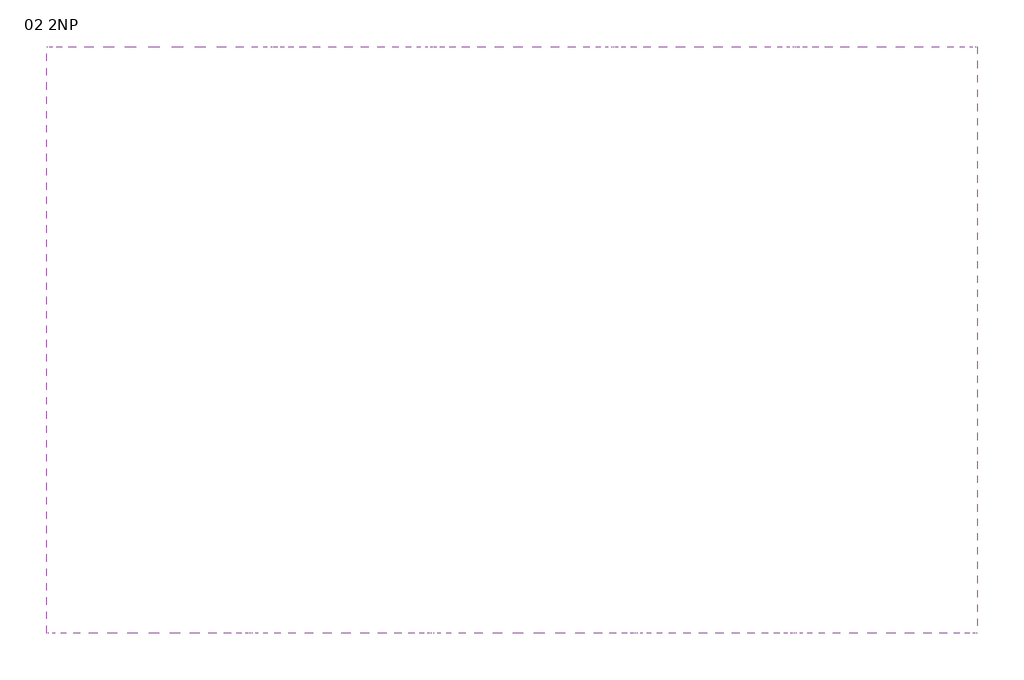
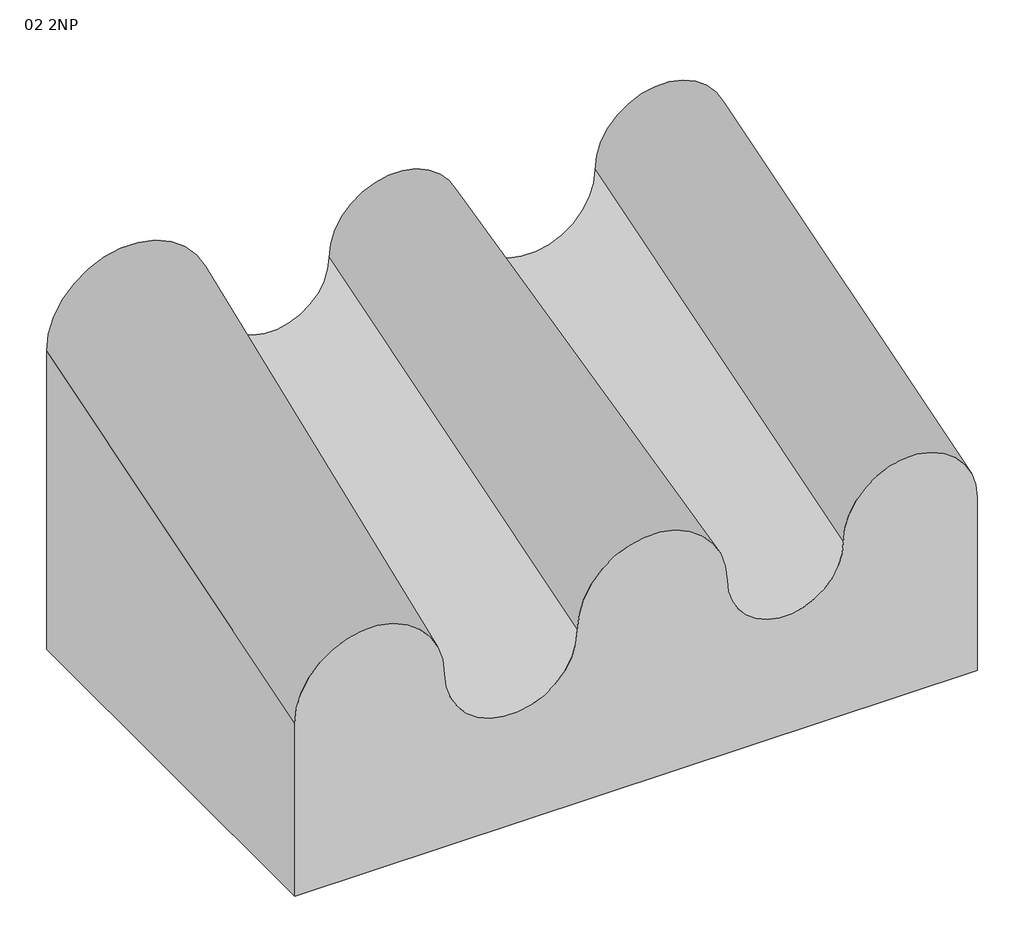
# One storey: 1 proxy.
"""IFC4 building model written with IfcOpenShell, lengths in millimetres."""

import ifcopenshell
import ifcopenshell.guid

model = None  # the IFC model being written
_history = None  # IfcOwnerHistory: only IFC2X3 demands one
_inside = {}  # id of a spatial element -> (the spatial element, [elements in it])
_under = {}  # id of a project, library or spatial element -> (it, [spatial elements below it])
_declared = {}  # id of a project -> (the project, [libraries it declares])
_typed = {}  # id of a type object -> (the type object, [elements of that type])
_made_of = {}  # id of a material, layer set ... -> (it, [elements and type objects made of it])


def new_model(schema):
    """Start an empty IFC model of exactly this schema.

    Asked for "IFC4X3", IfcOpenShell would pick the latest addendum, in which some entities
    have other attributes; the version numbers below select the first issue.
    IFC2X3 requires an IfcOwnerHistory on every rooted entity: one is made here for all.
    """
    global model, _history
    if schema == "IFC4X3":
        model = ifcopenshell.file(schema_version=(4, 3, 0, 0))
    else:
        model = ifcopenshell.file(schema=schema)
    _inside.clear()
    _under.clear()
    _declared.clear()
    _typed.clear()
    _made_of.clear()
    _history = None
    if model.schema == "IFC2X3":
        org = make("IfcOrganization", Name="unknown")
        user = make(
            "IfcPersonAndOrganization",
            ThePerson=make("IfcPerson", FamilyName="unknown"),
            TheOrganization=org,
        )
        app = make(
            "IfcApplication",
            ApplicationDeveloper=org,
            Version="unknown",
            ApplicationFullName="unknown",
            ApplicationIdentifier="unknown",
        )
        _history = make(
            "IfcOwnerHistory",
            OwningUser=user,
            OwningApplication=app,
            ChangeAction="ADDED",
            CreationDate=0,
        )
    return model


def make(cls, **values):
    """One entity of the class cls with the attributes given. An attribute that is None is left unset."""
    return model.create_entity(
        cls, **{name: value for name, value in values.items() if value is not None}
    )


def rooted(cls, **values):
    """An entity with a GlobalId (a new one), such as an element, a storey or a relation."""
    return make(cls, GlobalId=ifcopenshell.guid.new(), OwnerHistory=_history, **values)


def si_unit(unit_type, name, prefix=None):
    """IfcSIUnit, for example si_unit("LENGTHUNIT", "METRE", prefix="MILLI")."""
    return make("IfcSIUnit", UnitType=unit_type, Prefix=prefix, Name=name)


def assignment(units):
    """IfcUnitAssignment: the units of a project."""
    return None if units is None else make("IfcUnitAssignment", Units=units)


def point(xyz):
    """IfcCartesianPoint."""
    return None if xyz is None else make("IfcCartesianPoint", Coordinates=xyz)


def direction(xyz):
    """IfcDirection."""
    return None if xyz is None else make("IfcDirection", DirectionRatios=xyz)


def frame(location, z_axis=None, x_axis=None):
    """IfcAxis2Placement3D, a coordinate frame: its origin and axes. An axis left out is left unset."""
    return make(
        "IfcAxis2Placement3D",
        Location=point(location),
        Axis=direction(z_axis),
        RefDirection=direction(x_axis),
    )


def origin():
    """The frame at (0, 0, 0) with its axes left unset."""
    return frame((0.0, 0.0, 0.0))


def place(relative_to, where):
    """IfcLocalPlacement: puts the frame where relative to a parent placement (None: the world)."""
    return make(
        "IfcLocalPlacement", PlacementRelTo=relative_to, RelativePlacement=where
    )


def context(
    kind, dimensions, precision=None, world=None, true_north=None, identifier=None
):
    """IfcGeometricRepresentationContext, for example the 3D "Model" context."""
    return make(
        "IfcGeometricRepresentationContext",
        ContextIdentifier=identifier,
        ContextType=kind,
        CoordinateSpaceDimension=dimensions,
        Precision=precision,
        WorldCoordinateSystem=world,
        TrueNorth=true_north,
    )


def project(units=None, contexts=None):
    """IfcProject with its units and contexts."""
    return rooted(
        "IfcProject",
        Name="project",
        RepresentationContexts=contexts,
        UnitsInContext=assignment(units),
    )


def spatial(cls, under=None, at=None, **own):
    """A site, building, storey or space (cls), placed at a placement, below another one or the project."""
    s = rooted(cls, ObjectPlacement=at, **own)
    if under is not None:
        _under.setdefault(under.id(), (under, []))[1].append(s)
    return s


def circle_curve(where, radius):
    """IfcCircle in the frame where."""
    return make("IfcCircle", Position=where, Radius=radius)


def trimmed(basis, trim1, trim2, sense, master):
    """IfcTrimmedCurve: the piece of a basis curve between two trims."""
    return make(
        "IfcTrimmedCurve",
        BasisCurve=basis,
        Trim1=trim1,
        Trim2=trim2,
        SenseAgreement=sense,
        MasterRepresentation=master,
    )


def shape(context_of_items, identifier, shape_type, items):
    """IfcShapeRepresentation: the items that make up one representation, for example the "Body"."""
    return make(
        "IfcShapeRepresentation",
        ContextOfItems=context_of_items,
        RepresentationIdentifier=identifier,
        RepresentationType=shape_type,
        Items=items,
    )


def made_of(thing, what):
    """Note that an element or type object is made of a material, layer set ...; save() writes the relation."""
    if what is not None:
        _made_of.setdefault(what.id(), (what, []))[1].append(thing)
    return thing


def element(
    cls,
    number,
    at=None,
    inside=None,
    cuts=None,
    type_object=None,
    material=None,
    context=None,
    identifier="Body",
    shape_type=None,
    held_by="IfcProductDefinitionShape",
    body=None,
    shapes=None,
    **own,
):
    """One element of the class cls, such as IfcWall. Its Tag is "e" and its number.

    at: its placement. inside: the storey or other place that contains it. cuts: it is an
    opening in that element (IfcRelVoidsElement). A single representation is given by context,
    identifier, shape_type and body (its items); several are given by shapes. held_by: the class
    of the entity that holds the representations. save() writes the other relations.
    """
    e = rooted(cls, Tag="e%d" % number, ObjectPlacement=at, **own)
    if body is not None:
        shapes = [shape(context, identifier, shape_type, body)]
    if shapes is not None:
        e.Representation = make(held_by, Representations=shapes)
    if inside is not None:
        _inside.setdefault(inside.id(), (inside, []))[1].append(e)
    if cuts is not None:
        rooted(
            "IfcRelVoidsElement", RelatingBuildingElement=cuts, RelatedOpeningElement=e
        )
    if type_object is not None:
        _typed.setdefault(type_object.id(), (type_object, []))[1].append(e)
    return made_of(e, material)


def aggregate(whole, parts):
    """IfcRelAggregates: a whole, such as a stair, and the parts it consists of."""
    return rooted("IfcRelAggregates", RelatingObject=whole, RelatedObjects=parts)


def save(model, path):
    """Write the relations noted so far, then the file.

    IfcRelAggregates (storeys below a building ...), IfcRelContainedInSpatialStructure (elements
    in a storey), IfcRelDefinesByType, IfcRelAssociatesMaterial and IfcRelDeclares: one each for
    every whole, place, type object, material and project.
    """
    for whole, parts in _under.values():
        aggregate(whole, parts)
    for where, things in _inside.values():
        rooted(
            "IfcRelContainedInSpatialStructure",
            RelatedElements=things,
            RelatingStructure=where,
        )
    for kind, things in _typed.values():
        rooted("IfcRelDefinesByType", RelatedObjects=things, RelatingType=kind)
    for what, things in _made_of.values():
        rooted("IfcRelAssociatesMaterial", RelatedObjects=things, RelatingMaterial=what)
    for by, libraries in _declared.values():
        rooted("IfcRelDeclares", RelatingContext=by, RelatedDefinitions=libraries)
    model.write(path)


def plane_surface(at):
    """IfcPlane: the flat surface through the origin of the frame at, square to its z axis."""
    return make("IfcPlane", Position=at)


def extruded_surface(curve, direction_of_extrusion, depth):
    """IfcSurfaceOfLinearExtrusion: the curve pushed along a direction by depth."""
    return make(
        "IfcSurfaceOfLinearExtrusion",
        SweptCurve=make("IfcArbitraryOpenProfileDef", ProfileType="CURVE", Curve=curve),
        ExtrudedDirection=direction(direction_of_extrusion),
        Depth=depth,
    )


def spline_surface(u_degree, v_degree, points, u_multiplicities, v_multiplicities, u_knots, v_knots, weights=None):
    """IfcBSplineSurfaceWithKnots; with weights, IfcRationalBSplineSurfaceWithKnots. points: one row for each step in u."""
    own = dict(
        UDegree=u_degree,
        VDegree=v_degree,
        ControlPointsList=[[point(p) for p in row] for row in points],
        SurfaceForm="UNSPECIFIED",
        UClosed=False,
        VClosed=False,
        SelfIntersect=False,
        UMultiplicities=u_multiplicities,
        VMultiplicities=v_multiplicities,
        UKnots=u_knots,
        VKnots=v_knots,
        KnotSpec="UNSPECIFIED",
    )
    if weights is None:
        return make("IfcBSplineSurfaceWithKnots", **own)
    return make("IfcRationalBSplineSurfaceWithKnots", WeightsData=weights, **own)


def advanced_brep(points, edges, surfaces, faces):
    """IfcAdvancedBrep: a solid bounded by faces that lie on surfaces and meet in shared edges.

    An edge is (start, end): straight between two places in points (the first is 0);
    or (start, end, curve); or (start, end, curve, False) where it runs against its curve.
    A face is (place in surfaces, loops), or (place, loops, False) where it looks against
    its surface's normal. A loop lists edges by number (the first is 1), with a minus sign
    where the edge is run from its end to its start. The first loop is the outer one.
    """
    corners = [point(p) for p in points]
    vertices = [make("IfcVertexPoint", VertexGeometry=c) for c in corners]
    made = []
    for start, end, *more in edges:
        made.append(
            make(
                "IfcEdgeCurve",
                EdgeStart=vertices[start],
                EdgeEnd=vertices[end],
                EdgeGeometry=more[0] if more else make("IfcPolyline", Points=[corners[start], corners[end]]),
                SameSense=more[1] if len(more) > 1 else True,
            )
        )
    hull = []
    for where, loops, *sense in faces:
        bounds = []
        for j, loop in enumerate(loops):
            ring = [make("IfcOrientedEdge", EdgeElement=made[abs(k) - 1], Orientation=k > 0) for k in loop]
            bounds.append(
                make(
                    "IfcFaceOuterBound" if j == 0 else "IfcFaceBound",
                    Bound=make("IfcEdgeLoop", EdgeList=ring),
                    Orientation=True,
                )
            )
        hull.append(make("IfcAdvancedFace", Bounds=bounds, FaceSurface=surfaces[where], SameSense=sense[0] if sense else True))
    return make("IfcAdvancedBrep", Outer=make("IfcClosedShell", CfsFaces=hull))


model = new_model("IFC4")

# Units and contexts
model_context = context("Model", 3, world=origin())
ifc_project = project(units=[si_unit("LENGTHUNIT", "METRE", prefix="MILLI")], contexts=[model_context])

# Site, building, storey
site = spatial("IfcSite", under=ifc_project)
building = spatial("IfcBuilding", under=site)
storey = spatial("IfcBuildingStorey", under=building, Name="02 2NP", Elevation=3000.0)

# Proxy
placement = place(None, origin())
element("IfcBuildingElementProxy", 1, Name="Objem 1 : Objem 1", ObjectType="Objem 1 : Objem 1", at=placement, inside=storey, context=model_context, shape_type="AdvancedBrep", body=[
    advanced_brep(
    [(-97729.7903935, 9797.1001192, 46337.2556526), (-87729.7903935, 9797.1001192, 46337.2556526), (-80729.7903935, 9797.1001192, 46337.2556526), (-72729.7903935, 9797.1001192, 46337.2556526), (-64729.7903935, 9797.1001192, 46337.2556526), (-56666.4623595, 9797.1001192, 46337.2556526), (-56666.4623595, 9797.1001192, 38674.6133926), (-56666.4623595, 9797.1001192, 27337.2556526), (-97729.7903935, 9797.1001192, 27337.2556526), (-97729.7903935, -16074.2353437, 38337.2556526), (-97729.7903935, -16074.2353437, 27337.2556526), (-56666.4623595, -16074.2353437, 27337.2556526), (-56666.4623595, -16074.2353437, 38337.2556526), (-64729.7903935, -16074.2353437, 38337.2556526), (-71729.7903935, -16074.2353437, 38337.2556526), (-80729.7903935, -16074.2353437, 38337.2556526), (-88729.7903935, -16074.2353437, 38337.2556526)],
    [
        (0, 1, circle_curve(frame((-92729.7903935, 9797.1001192, 46337.2556526), z_axis=(0.0, 1.0, 0.0), x_axis=(-1.0, 0.0, 0.0)), 5000.0)),
        (1, 2, circle_curve(frame((-84229.7903935, 9797.1001192, 46337.2556526), z_axis=(0.0, -1.0, 0.0), x_axis=(-1.0, 0.0, 0.0)), 3500.0)),
        (2, 3, circle_curve(frame((-76729.7903935, 9797.1001192, 46337.2556526), z_axis=(0.0, 1.0, 0.0), x_axis=(-1.0, 0.0, 0.0)), 4000.0)),
        (3, 4, circle_curve(frame((-68729.7903935, 9797.1001192, 46337.2556526), z_axis=(0.0, -1.0, 0.0), x_axis=(-1.0, 0.0, 0.0)), 4000.0)),
        (4, 5, circle_curve(frame((-60698.1263765, 9797.1001192, 46337.2556526), z_axis=(0.0, 1.0, 0.0), x_axis=(-1.0, 0.0, 0.0)), 4031.664017)),
        (5, 6),
        (6, 7),
        (7, 8),
        (8, 0),
        (9, 10),
        (10, 11),
        (11, 12),
        (12, 13, circle_curve(frame((-60698.1263765, -16074.2353437, 38337.2556526), z_axis=(0.0, -1.0, 0.0), x_axis=(-1.0, 0.0, 0.0)), 4031.664017)),
        (13, 14, circle_curve(frame((-68229.7903935, -16074.2353437, 38337.2556526), z_axis=(0.0, 1.0, 0.0), x_axis=(-1.0, 0.0, 0.0)), 3500.0)),
        (14, 15, circle_curve(frame((-76229.7903935, -16074.2353437, 38337.2556526), z_axis=(0.0, -1.0, 0.0), x_axis=(-1.0, 0.0, 0.0)), 4500.0)),
        (15, 16, circle_curve(frame((-84729.7903935, -16074.2353437, 38337.2556526), z_axis=(0.0, 1.0, 0.0), x_axis=(-1.0, 0.0, 0.0)), 4000.0)),
        (16, 9, circle_curve(frame((-93229.7903935, -16074.2353437, 38337.2556526), z_axis=(0.0, -1.0, 0.0), x_axis=(-1.0, 0.0, 0.0)), 4500.0)),
        (16, 1),
        (0, 9),
        (15, 2),
        (14, 3),
        (13, 4),
        (12, 5),
        (12, 6),
        (11, 7),
        (10, 8),
    ],
    [
        plane_surface(frame((-74597.5699377, 9797.1001192, 41263.6287348), z_axis=(0.0, 1.0, 0.0), x_axis=(0.0, 0.0, 1.0))),
        plane_surface(frame((-76838.958385, -16074.2353437, 35587.2556526), z_axis=(0.0, -1.0, 0.0), x_axis=(0.0, 0.0, 1.0))),
        spline_surface(2, 1, [[(-97729.7903935, -16074.2353437, 38337.2556526), (-97729.7903935, 9797.1001192, 46337.2556526)], [(-97729.7903935, -16074.2353437, 42837.2556526), (-97729.7903935, 9797.1001192, 51337.2556526)], [(-93229.7903935, -16074.2353437, 42837.2556526), (-92729.7903935, 9797.1001192, 51337.2556526)], [(-88729.7903935, -16074.2353437, 42837.2556526), (-87729.7903935, 9797.1001192, 51337.2556526)], [(-88729.7903935, -16074.2353437, 38337.2556526), (-87729.7903935, 9797.1001192, 46337.2556526)]], [3, 2, 3], [2, 2], [0.0, 1.0, 2.0], [0.0, 1.0], weights=[[1.0, 1.0], [0.7071067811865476, 0.7071067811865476], [1.0, 1.0], [0.7071067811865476, 0.7071067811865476], [1.0, 1.0]]),
        spline_surface(2, 1, [[(-88729.7903935, -16074.2353437, 38337.2556526), (-87729.7903935, 9797.1001192, 46337.2556526)], [(-88729.7903935, -16074.2353437, 34337.2556526), (-87729.7903935, 9797.1001192, 42837.2556526)], [(-84729.7903935, -16074.2353437, 34337.2556526), (-84229.7903935, 9797.1001192, 42837.2556526)], [(-80729.7903935, -16074.2353437, 34337.2556526), (-80729.7903935, 9797.1001192, 42837.2556526)], [(-80729.7903935, -16074.2353437, 38337.2556526), (-80729.7903935, 9797.1001192, 46337.2556526)]], [3, 2, 3], [2, 2], [0.0, 1.0, 2.0], [0.0, 1.0], weights=[[1.0, 1.0], [0.7071067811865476, 0.7071067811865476], [1.0, 1.0], [0.7071067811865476, 0.7071067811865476], [1.0, 1.0]]),
        spline_surface(2, 1, [[(-80729.7903935, -16074.2353437, 38337.2556526), (-80729.7903935, 9797.1001192, 46337.2556526)], [(-80729.7903935, -16074.2353437, 42837.2556526), (-80729.7903935, 9797.1001192, 50337.2556526)], [(-76229.7903935, -16074.2353437, 42837.2556526), (-76729.7903935, 9797.1001192, 50337.2556526)], [(-71729.7903935, -16074.2353437, 42837.2556526), (-72729.7903935, 9797.1001192, 50337.2556526)], [(-71729.7903935, -16074.2353437, 38337.2556526), (-72729.7903935, 9797.1001192, 46337.2556526)]], [3, 2, 3], [2, 2], [0.0, 1.0, 2.0], [0.0, 1.0], weights=[[1.0, 1.0], [0.7071067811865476, 0.7071067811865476], [1.0, 1.0], [0.7071067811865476, 0.7071067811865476], [1.0, 1.0]]),
        spline_surface(2, 1, [[(-71729.7903935, -16074.2353437, 38337.2556526), (-72729.7903935, 9797.1001192, 46337.2556526)], [(-71729.7903935, -16074.2353437, 34837.2556526), (-72729.7903935, 9797.1001192, 42337.2556526)], [(-68229.7903935, -16074.2353437, 34837.2556526), (-68729.7903935, 9797.1001192, 42337.2556526)], [(-64729.79039350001, -16074.2353437, 34837.255652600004), (-64729.79039350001, 9797.1001192, 42337.255652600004)], [(-64729.7903935, -16074.2353437, 38337.2556526), (-64729.7903935, 9797.1001192, 46337.2556526)]], [3, 2, 3], [2, 2], [0.0, 1.0, 2.0], [0.0, 1.0], weights=[[1.0, 1.0], [0.7071067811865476, 0.7071067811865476], [1.0, 1.0], [0.7071067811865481, 0.7071067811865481], [1.0, 1.0]]),
        extruded_surface(trimmed(circle_curve(frame((-60698.1263765, -16074.2353437, 38337.2556526), z_axis=(0.0, 1.0, 0.0), x_axis=(-1.0, 0.0, 0.0)), 4031.664017), [point((-64729.7903935, -16074.2353437, 38337.2556526))], [point((-56666.4623595, -16074.2353437, 38337.2556526))], True, "CARTESIAN"), (0.0, 25871.335462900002, 8000.0), 27079.99258925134),
        plane_surface(frame((-56666.4623595, -16074.2353437, 38337.2556526), z_axis=(1.0, 0.0, 0.0), x_axis=(0.0, 0.0, -1.0))),
        plane_surface(frame((-56666.4623595, -16074.2353437, 32837.2556526), z_axis=(1.0, 0.0, 0.0), x_axis=(0.0, 0.0, -1.0))),
        plane_surface(frame((-77198.1263765, -16074.2353437, 27337.2556526), z_axis=(0.0, 0.0, -1.0), x_axis=(-1.0, 0.0, 0.0))),
        plane_surface(frame((-97729.7903935, -16074.2353437, 32837.2556526), z_axis=(-1.0, 0.0, 0.0), x_axis=(0.0, 0.0, 1.0))),
    ],
    [
        (0, [[1, 2, 3, 4, 5, 6, 7, 8, 9]]),
        (1, [[10, 11, 12, 13, 14, 15, 16, 17]]),
        (2, [[-17, 18, -1, 19]]),
        (3, [[-16, 20, -2, -18]]),
        (4, [[-15, 21, -3, -20]]),
        (5, [[-14, 22, -4, -21]]),
        (6, [[-13, 23, -5, -22]]),
        (7, [[-6, -23, 24]]),
        (8, [[-12, 25, -7, -24]]),
        (9, [[-11, 26, -8, -25]]),
        (10, [[-10, -19, -9, -26]]),
    ],
),
])

save(model, "model.ifc")
